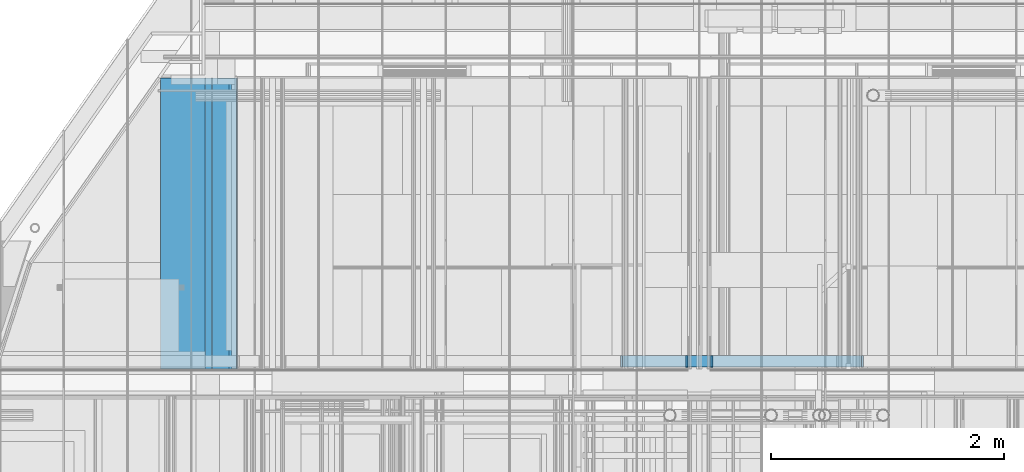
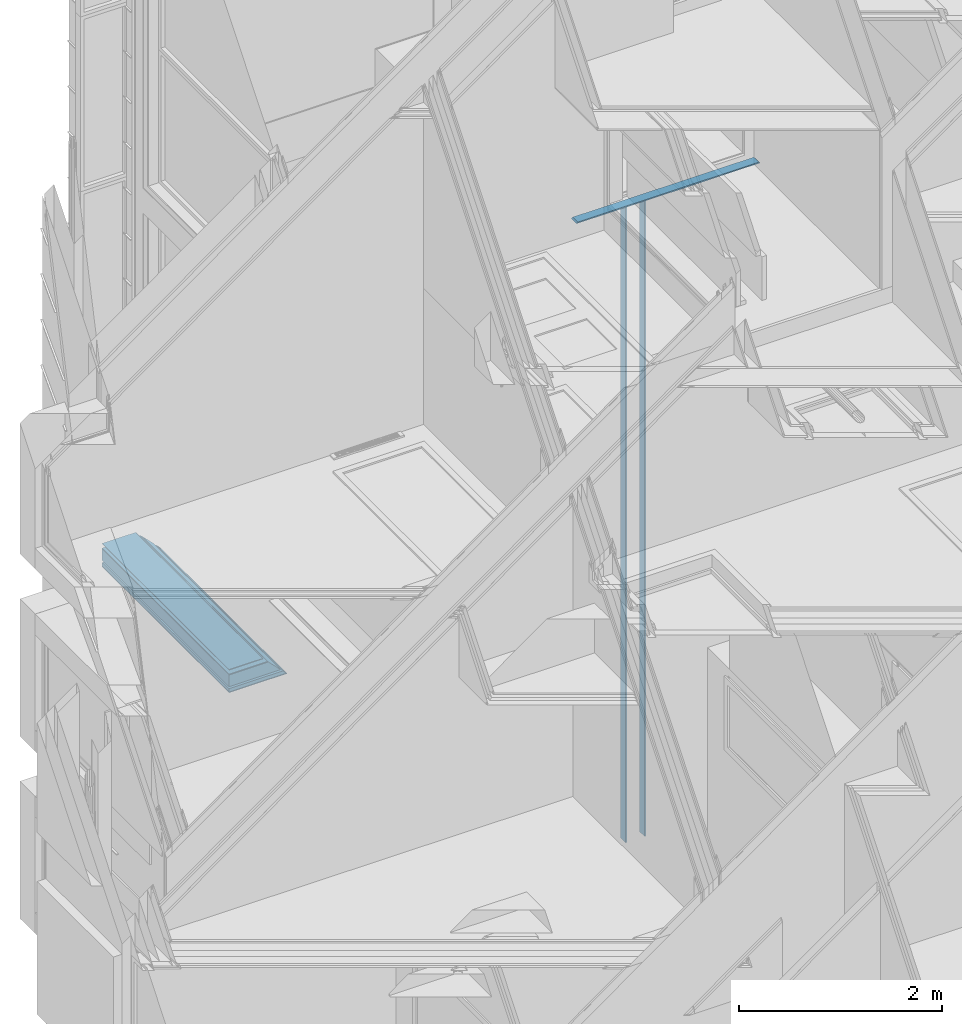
# One storey, part 152 of 583: 9 building element parts, 3 elements without a shape of their own.
"""IFC2X3 building model written with IfcOpenShell, lengths in metres."""

from ifc_helpers import new_model, entity, si_unit, converted_unit, derived_unit, money_unit, direction, frame, origin_with_axes, place, context, subcontext, project, spatial, polyline, outline, extrude, material, type_object, element, aggregate, save


model = new_model("IFC2X3")

# Units and contexts
model_context = context("Model", 3, precision=1e-05, world=origin_with_axes(), true_north=direction((0.0, 1.0)))
body_context = subcontext(model_context, "Body", "Model", "MODEL_VIEW", scale=1.0)
ifc_project = project(units=[si_unit("LENGTHUNIT", "METRE"), si_unit("AREAUNIT", "SQUARE_METRE"), si_unit("VOLUMEUNIT", "CUBIC_METRE"), si_unit("ABSORBEDDOSEUNIT", "GRAY"), si_unit("AMOUNTOFSUBSTANCEUNIT", "MOLE"), si_unit("DOSEEQUIVALENTUNIT", "SIEVERT"), si_unit("ELECTRICCAPACITANCEUNIT", "FARAD"), si_unit("ELECTRICCHARGEUNIT", "COULOMB"), si_unit("ELECTRICCONDUCTANCEUNIT", "SIEMENS"), si_unit("ELECTRICCURRENTUNIT", "AMPERE"), si_unit("ELECTRICRESISTANCEUNIT", "OHM"), si_unit("ELECTRICVOLTAGEUNIT", "VOLT"), si_unit("ENERGYUNIT", "JOULE"), si_unit("FORCEUNIT", "NEWTON"), si_unit("FREQUENCYUNIT", "HERTZ"), si_unit("ILLUMINANCEUNIT", "LUX"), si_unit("INDUCTANCEUNIT", "HENRY"), si_unit("LUMINOUSFLUXUNIT", "LUMEN"), si_unit("LUMINOUSINTENSITYUNIT", "CANDELA"), si_unit("MAGNETICFLUXDENSITYUNIT", "TESLA"), si_unit("MAGNETICFLUXUNIT", "WEBER"), si_unit("MASSUNIT", "GRAM"), converted_unit("PLANEANGLEUNIT", "degree", entity("IfcReal", 0.0174532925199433), si_unit("PLANEANGLEUNIT", "RADIAN"), dimensions=[0, 0, 0, 0, 0, 0, 0]), si_unit("POWERUNIT", "WATT"), si_unit("PRESSUREUNIT", "PASCAL"), si_unit("RADIOACTIVITYUNIT", "BECQUEREL"), si_unit("SOLIDANGLEUNIT", "STERADIAN"), si_unit("THERMODYNAMICTEMPERATUREUNIT", "KELVIN"), si_unit("TIMEUNIT", "SECOND"), derived_unit("ACCELERATIONUNIT", [(si_unit("LENGTHUNIT", "METRE"), 1), (si_unit("TIMEUNIT", "SECOND"), -2)]), derived_unit("ANGULARVELOCITYUNIT", [(converted_unit("PLANEANGLEUNIT", "degree", entity("IfcReal", 0.0174532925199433), si_unit("PLANEANGLEUNIT", "RADIAN"), dimensions=[0, 0, 0, 0, 0, 0, 0]), 1), (si_unit("TIMEUNIT", "SECOND"), -1)]), derived_unit("CURVATUREUNIT", [(converted_unit("PLANEANGLEUNIT", "degree", entity("IfcReal", 0.0174532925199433), si_unit("PLANEANGLEUNIT", "RADIAN"), dimensions=[0, 0, 0, 0, 0, 0, 0]), 1), (si_unit("LENGTHUNIT", "METRE"), -1)]), derived_unit("DYNAMICVISCOSITYUNIT", [(si_unit("PRESSUREUNIT", "PASCAL"), 1), (si_unit("TIMEUNIT", "SECOND"), 1)]), derived_unit("HEATFLUXDENSITYUNIT", [(si_unit("POWERUNIT", "WATT"), 1), (si_unit("LENGTHUNIT", "METRE"), -2)]), derived_unit("HEATINGVALUEUNIT", [(si_unit("ENERGYUNIT", "JOULE"), 1), (si_unit("MASSUNIT", "GRAM"), -1)]), derived_unit("INTEGERCOUNTRATEUNIT", [(si_unit("TIMEUNIT", "SECOND"), -1)]), derived_unit("IONCONCENTRATIONUNIT", [(si_unit("MASSUNIT", "GRAM"), 1), (si_unit("VOLUMEUNIT", "CUBIC_METRE"), -1)]), derived_unit("ISOTHERMALMOISTURECAPACITYUNIT", [(si_unit("VOLUMEUNIT", "CUBIC_METRE"), 1), (si_unit("MASSUNIT", "GRAM"), -1)]), derived_unit("KINEMATICVISCOSITYUNIT", [(si_unit("AREAUNIT", "SQUARE_METRE"), 1), (si_unit("TIMEUNIT", "SECOND"), -1)]), derived_unit("LINEARFORCEUNIT", [(si_unit("FORCEUNIT", "NEWTON"), 1), (si_unit("LENGTHUNIT", "METRE"), -1)]), derived_unit("LINEARMOMENTUNIT", [(si_unit("FORCEUNIT", "NEWTON"), 1), (si_unit("LENGTHUNIT", "METRE"), -1)]), derived_unit("LINEARSTIFFNESSUNIT", [(si_unit("FORCEUNIT", "NEWTON"), 1), (si_unit("LENGTHUNIT", "METRE"), -1)]), derived_unit("LINEARVELOCITYUNIT", [(si_unit("LENGTHUNIT", "METRE"), 1), (si_unit("TIMEUNIT", "SECOND"), -1)]), derived_unit("LUMINOUSINTENSITYDISTRIBUTIONUNIT", [(si_unit("LUMINOUSINTENSITYUNIT", "CANDELA"), 1), (si_unit("LUMINOUSFLUXUNIT", "LUMEN"), -1)]), derived_unit("MASSDENSITYUNIT", [(si_unit("MASSUNIT", "GRAM"), 1), (si_unit("VOLUMEUNIT", "CUBIC_METRE"), -1)]), derived_unit("MASSFLOWRATEUNIT", [(si_unit("MASSUNIT", "GRAM"), 1), (si_unit("TIMEUNIT", "SECOND"), -1)]), derived_unit("MASSPERLENGTHUNIT", [(si_unit("MASSUNIT", "GRAM"), 1), (si_unit("LENGTHUNIT", "METRE"), -1)]), derived_unit("MODULUSOFELASTICITYUNIT", [(si_unit("FORCEUNIT", "NEWTON"), 1), (si_unit("AREAUNIT", "SQUARE_METRE"), -1)]), derived_unit("MODULUSOFLINEARSUBGRADEREACTIONUNIT", [(si_unit("FORCEUNIT", "NEWTON"), 1), (si_unit("LENGTHUNIT", "METRE"), -2)]), derived_unit("MODULUSOFROTATIONALSUBGRADEREACTIONUNIT", [(si_unit("FORCEUNIT", "NEWTON"), 1), (si_unit("LENGTHUNIT", "METRE"), 1)]), derived_unit("MODULUSOFSUBGRADEREACTIONUNIT", [(si_unit("FORCEUNIT", "NEWTON"), 1), (si_unit("VOLUMEUNIT", "CUBIC_METRE"), -1)]), derived_unit("MOISTUREDIFFUSIVITYUNIT", [(si_unit("VOLUMEUNIT", "CUBIC_METRE"), 1), (si_unit("TIMEUNIT", "SECOND"), -1)]), derived_unit("MOLECULARWEIGHTUNIT", [(si_unit("MASSUNIT", "GRAM"), 1), (si_unit("AMOUNTOFSUBSTANCEUNIT", "MOLE"), -1)]), derived_unit("PLANARFORCEUNIT", [(si_unit("FORCEUNIT", "NEWTON"), 1), (si_unit("LENGTHUNIT", "METRE"), -2)]), derived_unit("ROTATIONALFREQUENCYUNIT", [(si_unit("TIMEUNIT", "SECOND"), -1)]), derived_unit("ROTATIONALMASSUNIT", [(si_unit("MASSUNIT", "GRAM"), 1), (si_unit("LENGTHUNIT", "METRE"), 2)]), derived_unit("ROTATIONALSTIFFNESSUNIT", [(si_unit("FORCEUNIT", "NEWTON"), 1), (si_unit("LENGTHUNIT", "METRE"), 1), (converted_unit("PLANEANGLEUNIT", "degree", entity("IfcReal", 0.0174532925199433), si_unit("PLANEANGLEUNIT", "RADIAN"), dimensions=[0, 0, 0, 0, 0, 0, 0]), -1)]), derived_unit("SECTIONAREAINTEGRALUNIT", [(si_unit("LENGTHUNIT", "METRE"), 5)]), derived_unit("SECTIONMODULUSUNIT", [(si_unit("LENGTHUNIT", "METRE"), 3)]), derived_unit("SHEARMODULUSUNIT", [(si_unit("FORCEUNIT", "NEWTON"), 1), (si_unit("AREAUNIT", "SQUARE_METRE"), -1)]), derived_unit("SOUNDPOWERUNIT", [(si_unit("ENERGYUNIT", "JOULE"), 1), (si_unit("TIMEUNIT", "SECOND"), -1)]), derived_unit("SPECIFICHEATCAPACITYUNIT", [(si_unit("FORCEUNIT", "NEWTON"), 1), (si_unit("MASSUNIT", "GRAM"), -1), (si_unit("THERMODYNAMICTEMPERATUREUNIT", "KELVIN"), -1)]), derived_unit("TEMPERATUREGRADIENTUNIT", [(si_unit("THERMODYNAMICTEMPERATUREUNIT", "KELVIN"), 1), (si_unit("LENGTHUNIT", "METRE"), -1)]), derived_unit("THERMALADMITTANCEUNIT", [(si_unit("POWERUNIT", "WATT"), 1), (si_unit("AREAUNIT", "SQUARE_METRE"), -1), (si_unit("THERMODYNAMICTEMPERATUREUNIT", "KELVIN"), -1)]), derived_unit("THERMALCONDUCTANCEUNIT", [(si_unit("POWERUNIT", "WATT"), 1), (si_unit("LENGTHUNIT", "METRE"), -1), (si_unit("THERMODYNAMICTEMPERATUREUNIT", "KELVIN"), -1)]), derived_unit("THERMALEXPANSIONCOEFFICIENTUNIT", [(si_unit("THERMODYNAMICTEMPERATUREUNIT", "KELVIN"), -1)]), derived_unit("THERMALRESISTANCEUNIT", [(si_unit("AREAUNIT", "SQUARE_METRE"), 1), (si_unit("POWERUNIT", "WATT"), -1)]), derived_unit("THERMALTRANSMITTANCEUNIT", [(si_unit("POWERUNIT", "WATT"), 1), (si_unit("AREAUNIT", "SQUARE_METRE"), -1), (si_unit("THERMODYNAMICTEMPERATUREUNIT", "KELVIN"), -1)]), derived_unit("TORQUEUNIT", [(si_unit("FORCEUNIT", "NEWTON"), 1), (si_unit("LENGTHUNIT", "METRE"), 1)]), derived_unit("VAPORPERMEABILITYUNIT", [(si_unit("MASSUNIT", "GRAM"), 1), (si_unit("TIMEUNIT", "SECOND"), -1)]), derived_unit("VOLUMETRICFLOWRATEUNIT", [(si_unit("VOLUMEUNIT", "CUBIC_METRE"), 1), (si_unit("TIMEUNIT", "SECOND"), -1)]), derived_unit("WARPINGCONSTANTUNIT", [(si_unit("LENGTHUNIT", "METRE"), 6)]), derived_unit("WARPINGMOMENTUNIT", [(si_unit("FORCEUNIT", "NEWTON"), 1), (si_unit("LENGTHUNIT", "METRE"), 2)]), money_unit("GBP")], contexts=[model_context])

# Site, building, storey
site_placement = place(None, origin_with_axes())
site = spatial("IfcSite", under=ifc_project, at=site_placement, Name="Site", CompositionType="ELEMENT")
building_placement = place(site_placement, origin_with_axes())
building = spatial("IfcBuilding", under=site, at=building_placement, Name="Building01", CompositionType="ELEMENT")
storey_placement = place(building_placement, frame((0.0, 0.0, 20.78), z_axis=(0.0, 0.0, 1.0), x_axis=(1.0, 0.0, 0.0)))
storey = spatial("IfcBuildingStorey", under=building, at=storey_placement, Name="RL", CompositionType="ELEMENT", Elevation=20.78)

# Wall, building element parts
wall_type_1 = type_object("IfcWallType", Name="SHE_A-Walls_Type06e_ExternalWallPenthouse_280mm", PredefinedType="NOTDEFINED")
wall_1_placement = place(storey_placement, frame((2.818607, 17.68, -15.784976), z_axis=(0.0, 1.0, 0.0), x_axis=(1.0, 0.0, 0.0)))
wall_1 = element("IfcWall", 1, at=wall_1_placement, inside=storey, type_object=wall_type_1, Name="6E", ObjectType="SHE_A-Walls_Type06e_ExternalWallPenthouse_280mm")
ifc_material_1 = material(Name="A_BSUK_Insulation")
placement_1 = place(wall_1_placement, origin_with_axes())
building_element_part_1 = element("IfcBuildingElementPart", 2, at=placement_1, material=ifc_material_1, Name="1", context=body_context, shape_type="SweptSolid", body=[
    extrude(outline(polyline([(0.586333, 0.14), (0.0, 0.14), (0.0, 0.0), (0.446333, 0.0), (0.586333, 0.14)])), origin_with_axes(), (0.0, 0.0, 1.0), 2.5),
])
building_element_part_2 = element("IfcBuildingElementPart", 3, at=placement_1, material=ifc_material_1, Name="2", context=body_context, shape_type="SweptSolid", body=[
    extrude(outline(polyline([(0.651333, 0.205), (0.0, 0.205), (0.0, 0.165), (0.611333, 0.165), (0.651333, 0.205)])), origin_with_axes(), (0.0, 0.0, 1.0), 2.5),
])
ifc_material_2 = material(Name="A_BSUK_WallInternal_Finishes_Plasterboard")
building_element_part_3 = element("IfcBuildingElementPart", 4, at=placement_1, material=ifc_material_2, Name="4", context=body_context, shape_type="SweptSolid", body=[
    extrude(outline(polyline([(0.661333, 0.215), (0.0, 0.215), (0.0, 0.205), (0.651333, 0.205), (0.661333, 0.215)])), origin_with_axes(), (0.0, 0.0, 1.0), 2.5),
])
ifc_material_3 = material(Name="A_BSUK_Walls_Timber")
building_element_part_4 = element("IfcBuildingElementPart", 5, at=placement_1, material=ifc_material_3, Name="5", context=body_context, shape_type="SweptSolid", body=[
    extrude(outline(polyline([(0.446333, 0.0), (0.0, 0.0), (0.0, -0.01), (0.436333, -0.01), (0.446333, 0.0)])), origin_with_axes(), (0.0, 0.0, 1.0), 2.5),
])
ifc_material_4 = material(Name="A_BSUK_WallInternal_Finishes_Metal")
building_element_part_5 = element("IfcBuildingElementPart", 6, at=placement_1, material=ifc_material_4, Name="6", context=body_context, shape_type="SweptSolid", body=[
    extrude(outline(polyline([(0.386333, -0.06), (0.0, -0.06), (0.0, -0.065), (0.381333, -0.065), (0.386333, -0.06)])), origin_with_axes(), (0.0, 0.0, 1.0), 2.5),
])
aggregate(wall_1, [building_element_part_1, building_element_part_2, building_element_part_3, building_element_part_4, building_element_part_5])

wall_type_2 = type_object("IfcWallType", Name="SHE_A-Walls_Type01d_Partywall_200mm_twin", PredefinedType="NOTDEFINED")
wall_2_placement = place(storey_placement, frame((7.475, 17.68, -11.743), z_axis=(0.0, 1.0, 0.0), x_axis=(0.0, 0.0, -1.0)))
wall_2 = element("IfcWall", 7, at=wall_2_placement, inside=storey, type_object=wall_type_2, Name="1D", ObjectType="SHE_A-Walls_Type01d_Partywall_200mm_twin")
placement_2 = place(wall_2_placement, origin_with_axes())
building_element_part_6 = element("IfcBuildingElementPart", 8, at=placement_2, material=ifc_material_3, Name="2", context=body_context, shape_type="SweptSolid", body=[
    extrude(outline(polyline([(7.649374, 0.14), (0.015, 0.14), (0.0, 0.125), (7.649374, 0.125), (7.649374, 0.14)])), frame((0.0, 0.0, 0.015), z_axis=(0.0, 0.0, 1.0), x_axis=(1.0, 0.0, 0.0)), (0.0, 0.0, 1.0), 0.1),
])
building_element_part_7 = element("IfcBuildingElementPart", 9, at=placement_2, material=ifc_material_3, Name="7", context=body_context, shape_type="SweptSolid", body=[
    extrude(outline(polyline([(7.649374, -0.075), (0.0, -0.075), (0.015, -0.09), (7.649374, -0.09), (7.649374, -0.075)])), frame((0.0, 0.0, 0.015), z_axis=(0.0, 0.0, 1.0), x_axis=(1.0, 0.0, 0.0)), (0.0, 0.0, 1.0), 0.1),
])
aggregate(wall_2, [building_element_part_6, building_element_part_7])

wall_type_3 = type_object("IfcWallType", Name="SHE_A-Walls_Type02c_LiftShaftWall_193mm", PredefinedType="NOTDEFINED")
wall_3_placement = place(storey_placement, frame((6.909769, 17.68, -11.623), z_axis=(0.0, 1.0, 0.0), x_axis=(1.0, 0.0, 0.0)))
wall_3 = element("IfcWall", 10, at=wall_3_placement, inside=storey, type_object=wall_type_3, Name="2C", ObjectType="SHE_A-Walls_Type02c_LiftShaftWall_193mm")
placement_3 = place(wall_3_placement, origin_with_axes())
building_element_part_8 = element("IfcBuildingElementPart", 11, at=placement_3, material=ifc_material_3, Name="3", context=body_context, shape_type="SweptSolid", body=[
    extrude(outline(polyline([(1.952584, 0.135), (-0.135, 0.135), (-0.12, 0.12), (1.937584, 0.12), (1.952584, 0.135)])), frame((0.0, 0.0, 0.015), z_axis=(0.0, 0.0, 1.0), x_axis=(1.0, 0.0, 0.0)), (0.0, 0.0, 1.0), 0.1),
])
building_element_part_9 = element("IfcBuildingElementPart", 12, at=placement_3, material=ifc_material_3, Name="7", context=body_context, shape_type="SweptSolid", body=[
    extrude(outline(polyline([(1.952584, 0.135), (-0.135, 0.135), (-0.12, 0.12), (1.937584, 0.12), (1.952584, 0.135)])), frame((0.0, 0.0, 0.015), z_axis=(0.0, 0.0, 1.0), x_axis=(1.0, 0.0, 0.0)), (0.0, 0.0, 1.0), 0.1),
])
aggregate(wall_3, [building_element_part_8, building_element_part_9])

save(model, "model.ifc")
